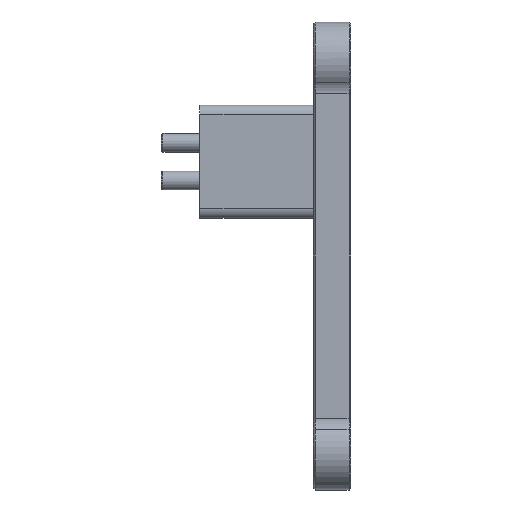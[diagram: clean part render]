
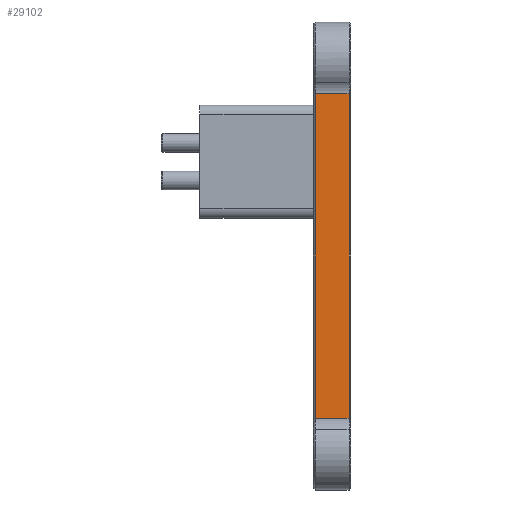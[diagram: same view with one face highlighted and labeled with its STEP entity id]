
A CAD part, left-side view. The second image highlights one B-rep face of the part: STEP entity #29102.
In plain terms, the highlighted planar face has unit normal (-1, 0, 0).
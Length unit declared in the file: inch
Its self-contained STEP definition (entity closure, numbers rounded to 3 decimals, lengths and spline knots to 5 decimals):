
#979 = CARTESIAN_POINT ( 'NONE',  ( -2.95, 0.475, -1.2635 ) ) ;
#1547 = DIRECTION ( 'NONE',  ( 0., 0., -1. ) ) ;
#2887 = VERTEX_POINT ( 'NONE', #28154 ) ;
#2993 = DIRECTION ( 'NONE',  ( 0., 1., 0. ) ) ;
#3039 = ORIENTED_EDGE ( 'NONE', *, *, #43312, .T. ) ;
#4464 = CARTESIAN_POINT ( 'NONE',  ( -2.95, 0.025, -3.4135 ) ) ;
#5906 = VERTEX_POINT ( 'NONE', #43005 ) ;
#6226 = LINE ( 'NONE', #34804, #12705 ) ;
#6439 = CARTESIAN_POINT ( 'NONE',  ( -2.95, 0.25, -1.2635 ) ) ;
#6821 = ORIENTED_EDGE ( 'NONE', *, *, #39847, .F. ) ;
#7043 = VERTEX_POINT ( 'NONE', #35123 ) ;
#12381 = VECTOR ( 'NONE', #34561, 39.37008 ) ;
#12705 = VECTOR ( 'NONE', #2993, 39.37008 ) ;
#13579 = LINE ( 'NONE', #6439, #12381 ) ;
#14568 = VECTOR ( 'NONE', #1547, 39.37008 ) ;
#15269 = LINE ( 'NONE', #4464, #17064 ) ;
#17064 = VECTOR ( 'NONE', #18738, 39.37008 ) ;
#17342 = PLANE ( 'NONE',  #20295 ) ;
#18738 = DIRECTION ( 'NONE',  ( 0., 0., -1. ) ) ;
#19068 = LINE ( 'NONE', #33138, #14568 ) ;
#20295 = AXIS2_PLACEMENT_3D ( 'NONE', #27969, #24525, #24958 ) ;
#21020 = EDGE_CURVE ( 'NONE', #2887, #5906, #15269, .T. ) ;
#22173 = EDGE_LOOP ( 'NONE', ( #34813, #38324, #3039, #6821 ) ) ;
#24525 = DIRECTION ( 'NONE',  ( 1., 0., 0. ) ) ;
#24958 = DIRECTION ( 'NONE',  ( 0., 1., 0. ) ) ;
#27969 = CARTESIAN_POINT ( 'NONE',  ( -2.95, 0.025, -5.5635 ) ) ;
#28154 = CARTESIAN_POINT ( 'NONE',  ( -2.95, 0.025, -1.2635 ) ) ;
#29102 = ADVANCED_FACE ( 'NONE', ( #38973 ), #17342, .F. ) ;
#30590 = VERTEX_POINT ( 'NONE', #979 ) ;
#33138 = CARTESIAN_POINT ( 'NONE',  ( -2.95, 0.475, -3.4135 ) ) ;
#34339 = EDGE_CURVE ( 'NONE', #30590, #2887, #13579, .T. ) ;
#34561 = DIRECTION ( 'NONE',  ( 0., -1., 0. ) ) ;
#34804 = CARTESIAN_POINT ( 'NONE',  ( -2.95, 0.25, -5.5635 ) ) ;
#34813 = ORIENTED_EDGE ( 'NONE', *, *, #21020, .F. ) ;
#35123 = CARTESIAN_POINT ( 'NONE',  ( -2.95, 0.475, -5.5635 ) ) ;
#38324 = ORIENTED_EDGE ( 'NONE', *, *, #34339, .F. ) ;
#38973 = FACE_OUTER_BOUND ( 'NONE', #22173, .T. ) ;
#39847 = EDGE_CURVE ( 'NONE', #5906, #7043, #6226, .T. ) ;
#43005 = CARTESIAN_POINT ( 'NONE',  ( -2.95, 0.025, -5.5635 ) ) ;
#43312 = EDGE_CURVE ( 'NONE', #30590, #7043, #19068, .T. ) ;
